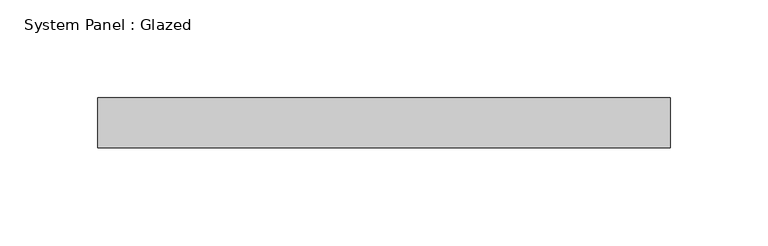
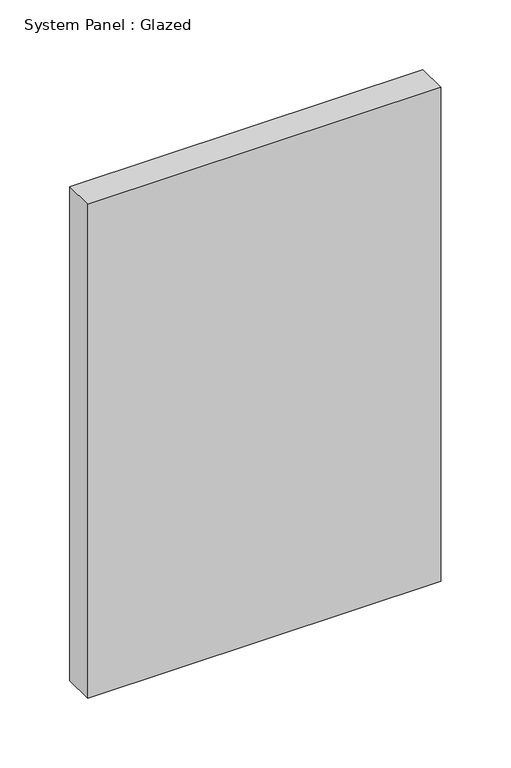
"""IFC4 building model written with IfcOpenShell, lengths in millimetres: plate geometry, System Panel : Glazed."""

from ifc_helpers import new_model, si_unit, origin, origin_with_axes, place, context, project, spatial, polyline, outline, extrude, source, transform, mapped, element, save


def system_panel_glazed_0f17cebf(model_context):
    return source(origin(), model_context, "Body", "SweptSolid", [
        extrude(outline(polyline([(146.0499998, -44.45), (-146.0499998, -44.45), (-146.0499998, -19.05), (146.0499998, -19.05), (146.0499998, -44.45)])), origin_with_axes(), (0.0, 0.0, 1.0), 431.8),
    ])


if __name__ == "__main__":
    model = new_model("IFC4")
    model_context = context("Model", 3, world=origin())
    ifc_project = project(units=[si_unit("LENGTHUNIT", "METRE", prefix="MILLI")], contexts=[model_context])
    site = spatial("IfcSite", under=ifc_project)
    building = spatial("IfcBuilding", under=site)
    placement = place(None, origin())
    system_panel_glazed_shape = system_panel_glazed_0f17cebf(model_context)
    element("IfcPlate", 1, ObjectType="System Panel : Glazed", at=placement, inside=building, context=model_context, shape_type="MappedRepresentation", body=[
        mapped(system_panel_glazed_shape, transform((0.0, 0.0, 0.0), x_axis=(1.0, 0.0, 0.0), y_axis=(0.0, 1.0, 0.0), z_axis=(0.0, 0.0, 1.0))),
    ])
    save(model, "model.ifc")
